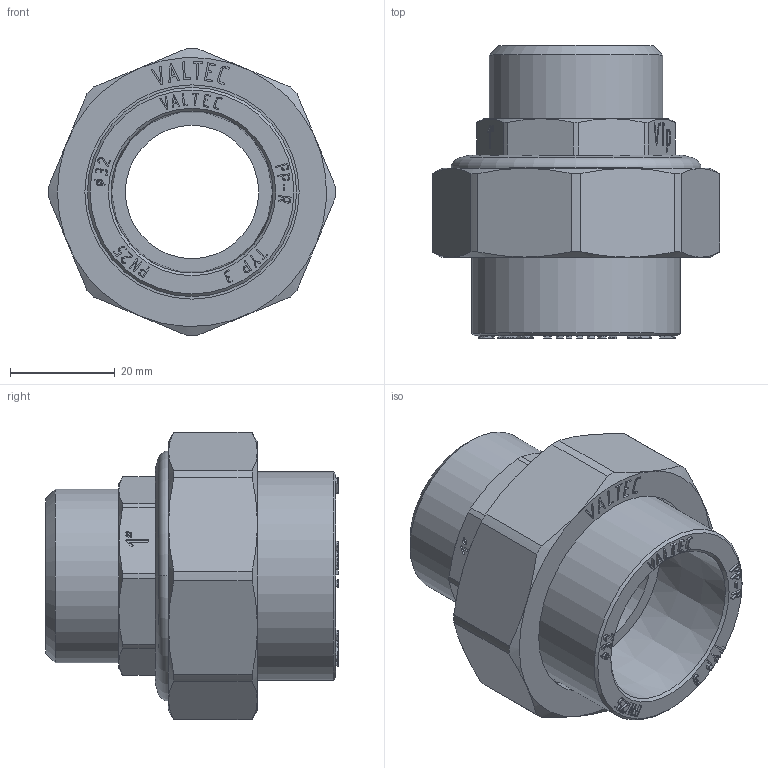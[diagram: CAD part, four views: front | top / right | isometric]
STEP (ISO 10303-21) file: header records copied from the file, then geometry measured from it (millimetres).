
FILE_DESCRIPTION(('STEP AP203'), '1');
FILE_NAME('VTp.761.0.03206', '', ('UNSPECIFIED'), ('UNSPECIFIED'), 'C3D Converter', 'C3D Toolkit', '');
FILE_SCHEMA(('CONFIG_CONTROL_DESIGN'));
Length unit declared in the file: millimetre
Products named in the file (1): ВР.302634.102.000 СБ
Bounding box: 55 x 56 x 55 mm (x, y, z)
Volume: 45183 mm3; surface area: 24650.9 mm2
Topology: 4 solids, 4 shells, 841 faces, 2338 edges, 1548 vertices
Faces by surface type: extrusion 463, plane 323, cylinder 29, cone 21, torus 5
Full cylindrical faces by diameter (mm): 25.5 x2, 29 x1, 33.249 x1, 35 x2, 40 x1, 41 x1, 42.2 x2, 44.5 x1, 44.846 x1, 47.8 x1
Entity records: 28212 total; most frequent: CARTESIAN_POINT 8575, ORIENTED_EDGE 4600, DIRECTION 2647, EDGE_CURVE 2300, VECTOR 1715, VERTEX_POINT 1542, B_SPLINE_CURVE_WITH_KNOTS 1424, LINE 1252
